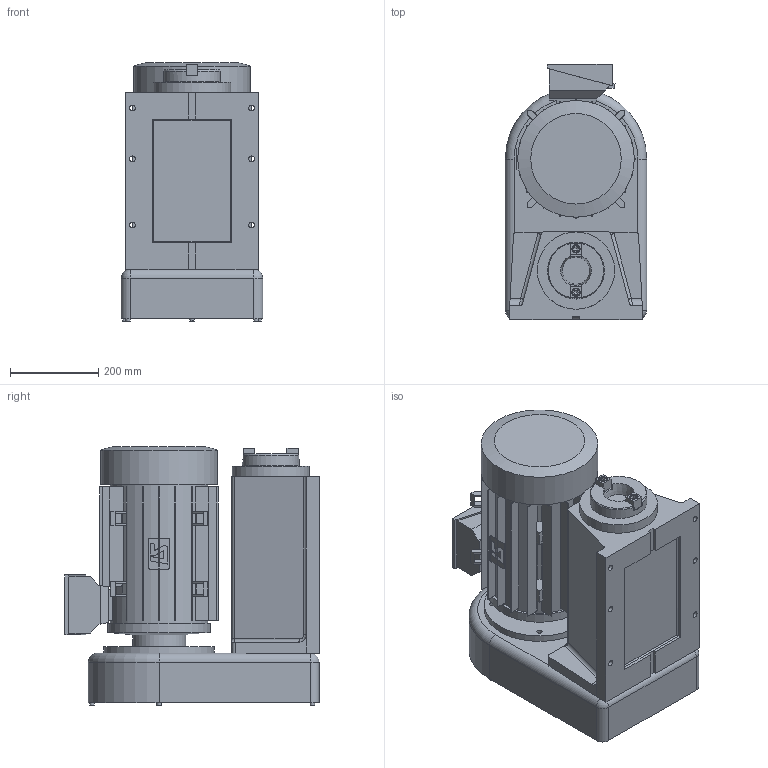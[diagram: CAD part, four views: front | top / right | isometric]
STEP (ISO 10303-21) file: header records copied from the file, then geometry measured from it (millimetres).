
FILE_DESCRIPTION((''),'2;1');
FILE_NAME('C:\VaultWork\Zeichnungen\Maßblätter\BF5\B4486-1-1 Bohreinheit BF5.stp','2009-03-20T08:28:05',('Test'),(''),'Autodesk Inventor 2008','Autodesk Inventor 2008','');
FILE_SCHEMA(('AUTOMOTIVE_DESIGN { 1 0 10303 214 1 1 1 1 }'));
Length unit declared in the file: millimetre
Products named in the file (1): B4486-1-1 Bohreinheit BF5
Bounding box: 320 x 577 x 586.1 mm (x, y, z)
Volume: 55625204 mm3; surface area: 1746428.7 mm2
Topology: 1 solids, 7 shells, 519 faces, 1360 edges, 867 vertices
Faces by surface type: plane 409, cylinder 60, bspline 25, cone 15, torus 8, sphere 2
Full cylindrical faces by diameter (mm): 3.242 x1, 6 x5, 6.6 x5, 10 x5, 12 x6, 18 x2, 85 x1, 120 x1, 128.57 x1, 175 x1, 221 x1, 232 x1, 250 x1, 264 x1
Entity records: 16403 total; most frequent: CARTESIAN_POINT 3577, ORIENTED_EDGE 2510, DIRECTION 2414, EDGE_CURVE 1255, VECTOR 970, LINE 970, VERTEX_POINT 836, AXIS2_PLACEMENT_3D 722
